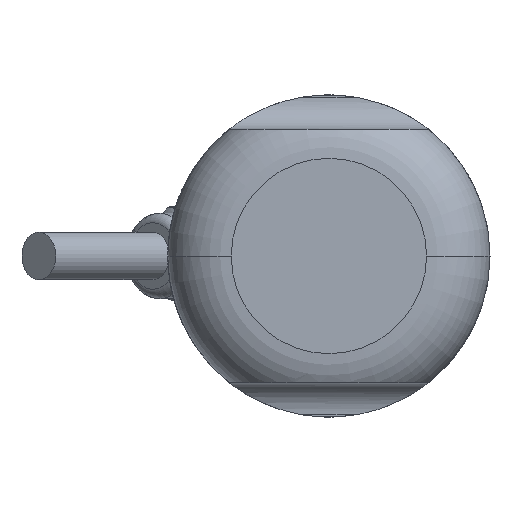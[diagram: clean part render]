
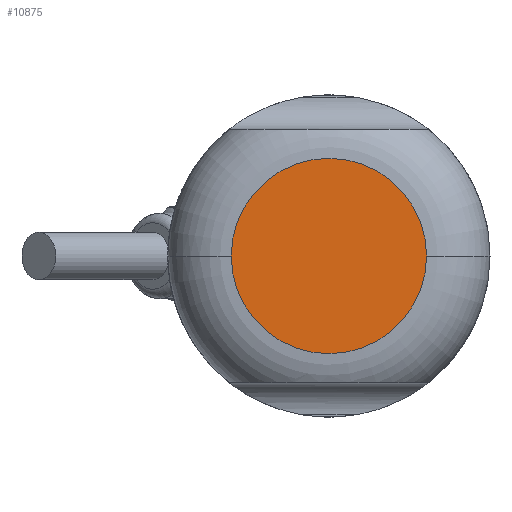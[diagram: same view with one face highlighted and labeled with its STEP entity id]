
A CAD part, left-side view. The second image highlights one B-rep face of the part: STEP entity #10875.
In plain terms, the highlighted planar face has unit normal (-1, 0, 0).
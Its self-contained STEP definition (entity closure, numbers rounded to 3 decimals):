
#19 = CARTESIAN_POINT ( 'NONE',  ( -30.209, -24.621, 0. ) ) ;
#637 = CARTESIAN_POINT ( 'NONE',  ( -30.209, -9.221, 0. ) ) ;
#1934 = DIRECTION ( 'NONE',  ( -1., 0., 0. ) ) ;
#2338 = DIRECTION ( 'NONE',  ( -1., 0., 0. ) ) ;
#3262 = AXIS2_PLACEMENT_3D ( 'NONE', #7295, #2338, #6314 ) ;
#3490 = CIRCLE ( 'NONE', #5987, 15.4 ) ;
#3980 = DIRECTION ( 'NONE',  ( 1., 0., 0. ) ) ;
#4066 = EDGE_LOOP ( 'NONE', ( #9671, #7991 ) ) ;
#4193 = VERTEX_POINT ( 'NONE', #5083 ) ;
#4935 = DIRECTION ( 'NONE',  ( 0., -1., 0. ) ) ;
#5083 = CARTESIAN_POINT ( 'NONE',  ( -30.209, -40.021, 0. ) ) ;
#5987 = AXIS2_PLACEMENT_3D ( 'NONE', #10836, #1934, #4935 ) ;
#6314 = DIRECTION ( 'NONE',  ( 0., 1., 0. ) ) ;
#6386 = EDGE_CURVE ( 'NONE', #4193, #6628, #3490, .T. ) ;
#6628 = VERTEX_POINT ( 'NONE', #637 ) ;
#6908 = FACE_OUTER_BOUND ( 'NONE', #4066, .T. ) ;
#7295 = CARTESIAN_POINT ( 'NONE',  ( -30.209, -24.621, 0. ) ) ;
#7991 = ORIENTED_EDGE ( 'NONE', *, *, #11031, .T. ) ;
#8669 = CIRCLE ( 'NONE', #3262, 15.4 ) ;
#8922 = PLANE ( 'NONE',  #11139 ) ;
#9671 = ORIENTED_EDGE ( 'NONE', *, *, #6386, .T. ) ;
#10836 = CARTESIAN_POINT ( 'NONE',  ( -30.209, -24.621, 0. ) ) ;
#10875 = ADVANCED_FACE ( 'NONE', ( #6908 ), #8922, .F. ) ;
#11031 = EDGE_CURVE ( 'NONE', #6628, #4193, #8669, .T. ) ;
#11139 = AXIS2_PLACEMENT_3D ( 'NONE', #19, #3980, #12223 ) ;
#12223 = DIRECTION ( 'NONE',  ( 0., 1., 0. ) ) ;
